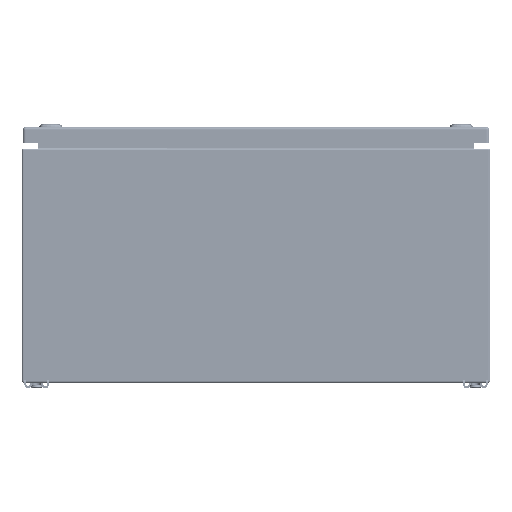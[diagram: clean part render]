
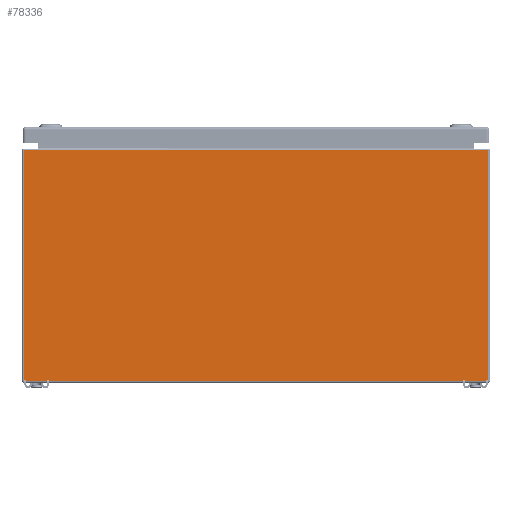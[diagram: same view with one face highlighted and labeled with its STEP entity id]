
A CAD part, front view. The second image highlights one B-rep face of the part: STEP entity #78336.
In plain terms, the highlighted planar face has unit normal (0, -1, 0).
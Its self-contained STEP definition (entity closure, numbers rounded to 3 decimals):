
#10293=FACE_OUTER_BOUND('',#14960,.T.);
#14960=EDGE_LOOP('',(#52141,#52142,#52143,#52144));
#19956=LINE('',#109294,#25802);
#19963=LINE('',#109309,#25809);
#19965=LINE('',#109316,#25811);
#19967=LINE('',#109325,#25813);
#25802=VECTOR('',#90575,0.394);
#25809=VECTOR('',#90588,0.394);
#25811=VECTOR('',#90596,0.394);
#25813=VECTOR('',#90608,0.394);
#31633=VERTEX_POINT('',#109264);
#31640=VERTEX_POINT('',#109290);
#31645=VERTEX_POINT('',#109308);
#31647=VERTEX_POINT('',#109314);
#39633=EDGE_CURVE('',#31633,#31640,#19956,.T.);
#39640=EDGE_CURVE('',#31640,#31645,#19963,.T.);
#39644=EDGE_CURVE('',#31647,#31633,#19965,.T.);
#39649=EDGE_CURVE('',#31647,#31645,#19967,.T.);
#52141=ORIENTED_EDGE('',*,*,#39633,.F.);
#52142=ORIENTED_EDGE('',*,*,#39644,.F.);
#52143=ORIENTED_EDGE('',*,*,#39649,.T.);
#52144=ORIENTED_EDGE('',*,*,#39640,.F.);
#76367=PLANE('',#83973);
#78336=ADVANCED_FACE('',(#10293),#76367,.F.);
#83973=AXIS2_PLACEMENT_3D('',#109336,#90622,#90623);
#90575=DIRECTION('',(1.,0.,0.));
#90588=DIRECTION('',(0.,0.,-1.));
#90596=DIRECTION('',(0.,0.,1.));
#90608=DIRECTION('',(1.,0.,0.));
#90622=DIRECTION('center_axis',(0.,1.,0.));
#90623=DIRECTION('ref_axis',(0.,0.,1.));
#109264=CARTESIAN_POINT('',(-11.916,-10.,11.916));
#109290=CARTESIAN_POINT('',(11.916,-10.,11.916));
#109294=CARTESIAN_POINT('',(5.979,-10.,11.916));
#109308=CARTESIAN_POINT('',(11.916,-10.,0.084));
#109309=CARTESIAN_POINT('',(11.916,-10.,6.));
#109314=CARTESIAN_POINT('',(-11.916,-10.,0.084));
#109316=CARTESIAN_POINT('',(-11.916,-10.,6.));
#109325=CARTESIAN_POINT('',(-5.958,-10.,0.084));
#109336=CARTESIAN_POINT('Origin',(0.,-10.,6.));
